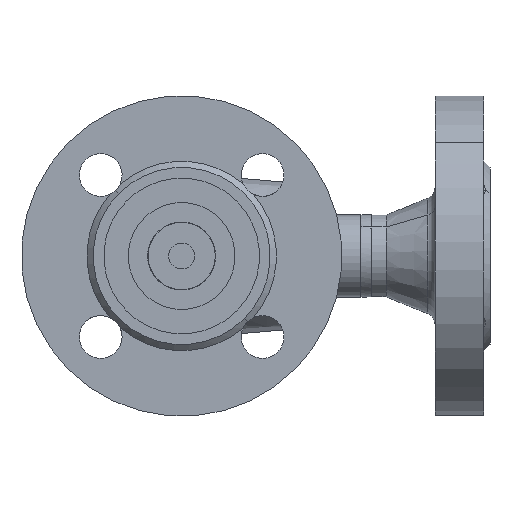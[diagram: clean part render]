
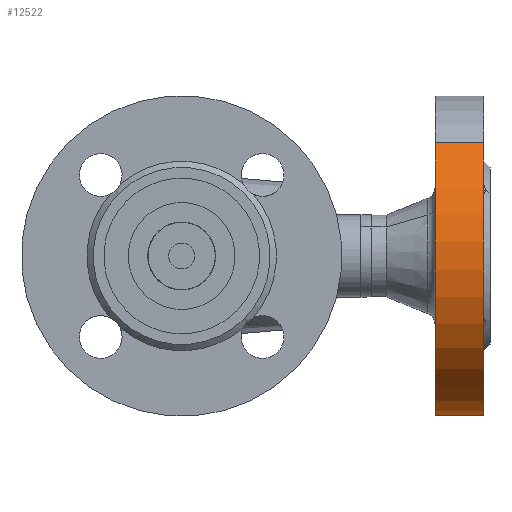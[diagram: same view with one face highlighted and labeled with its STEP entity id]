
A CAD part, front view. The second image highlights one B-rep face of the part: STEP entity #12522.
In plain terms, the highlighted cylindrical face has radius 52.5 mm (diameter 105 mm), a partial arc.
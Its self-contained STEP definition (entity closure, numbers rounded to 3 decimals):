
#447 = CARTESIAN_POINT ( 'NONE',  ( 52.5, 2., 0. ) ) ;
#17109 = EDGE_CURVE ( 'NONE', #20588, #17998, #19044, .T. ) ;
#824 = CARTESIAN_POINT ( 'NONE',  ( -52.5, 2., 0. ) ) ;
#17477 = ORIENTED_EDGE ( 'NONE', *, *, #17109, .F. ) ;
#17998 = VERTEX_POINT ( 'NONE', #20196 ) ;
#18221 = EDGE_CURVE ( 'NONE', #17998, #19267, #20420, .T. ) ;
#18589 = ORIENTED_EDGE ( 'NONE', *, *, #18221, .F. ) ;
#2306 = CIRCLE ( 'NONE', #2307, 52.5 ) ;
#2307 = AXIS2_PLACEMENT_3D ( 'NONE', #2308, #2309, #2310 ) ;
#2308 = CARTESIAN_POINT ( 'NONE',  ( 0., 2., 0. ) ) ;
#2309 = DIRECTION ( 'NONE',  ( 0., 1., 0. ) ) ;
#2310 = DIRECTION ( 'NONE',  ( -1., 0., 0. ) ) ;
#19044 = LINE ( 'NONE', #19045, #19046 ) ;
#19045 = CARTESIAN_POINT ( 'NONE',  ( -52.5, 75., 0. ) ) ;
#19046 = VECTOR ( 'NONE', #19047, 1000. ) ;
#19047 = DIRECTION ( 'NONE',  ( 0., 1., 0. ) ) ;
#19267 = VERTEX_POINT ( 'NONE', #22886 ) ;
#19488 = EDGE_CURVE ( 'NONE', #20367, #19267, #23444, .T. ) ;
#19855 = ORIENTED_EDGE ( 'NONE', *, *, #19488, .T. ) ;
#20196 = CARTESIAN_POINT ( 'NONE',  ( -52.5, 18., 0. ) ) ;
#20367 = VERTEX_POINT ( 'NONE', #447 ) ;
#20420 = CIRCLE ( 'NONE', #20421, 52.5 ) ;
#20421 = AXIS2_PLACEMENT_3D ( 'NONE', #20423, #20424, #20425 ) ;
#20423 = CARTESIAN_POINT ( 'NONE',  ( 0., 18., 0. ) ) ;
#20424 = DIRECTION ( 'NONE',  ( 0., 1., 0. ) ) ;
#20425 = DIRECTION ( 'NONE',  ( -1., 0., 0. ) ) ;
#20588 = VERTEX_POINT ( 'NONE', #824 ) ;
#4344 = FACE_OUTER_BOUND ( 'NONE', #12283, .T. ) ;
#4345 = CYLINDRICAL_SURFACE ( 'NONE', #4346, 52.5 ) ;
#4346 = AXIS2_PLACEMENT_3D ( 'NONE', #4347, #4348, #4349 ) ;
#4347 = CARTESIAN_POINT ( 'NONE',  ( 0., 75., 0. ) ) ;
#4348 = DIRECTION ( 'NONE',  ( 0., 1., 0. ) ) ;
#4349 = DIRECTION ( 'NONE',  ( -1., 0., 0. ) ) ;
#20929 = EDGE_CURVE ( 'NONE', #20588, #20367, #2306, .T. ) ;
#21543 = ORIENTED_EDGE ( 'NONE', *, *, #20929, .T. ) ;
#22886 = CARTESIAN_POINT ( 'NONE',  ( 52.5, 18., 0. ) ) ;
#23444 = LINE ( 'NONE', #23445, #23446 ) ;
#23445 = CARTESIAN_POINT ( 'NONE',  ( 52.5, 75., 0. ) ) ;
#23446 = VECTOR ( 'NONE', #23447, 1000. ) ;
#23447 = DIRECTION ( 'NONE',  ( 0., 1., 0. ) ) ;
#12283 = EDGE_LOOP ( 'NONE', ( #21543, #19855, #18589, #17477 ) ) ;
#12522 = ADVANCED_FACE ( 'NONE', ( #4344 ), #4345, .T. ) ;
